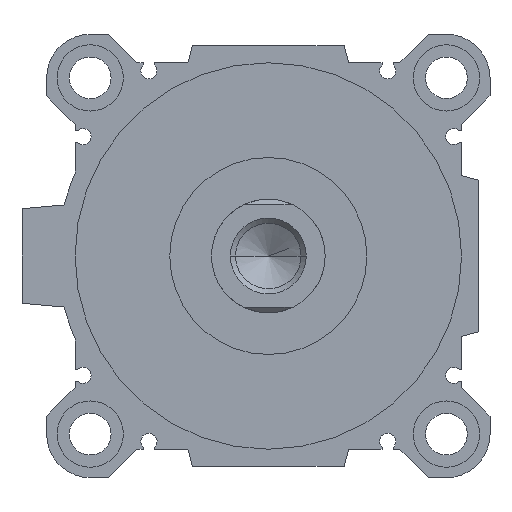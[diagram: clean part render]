
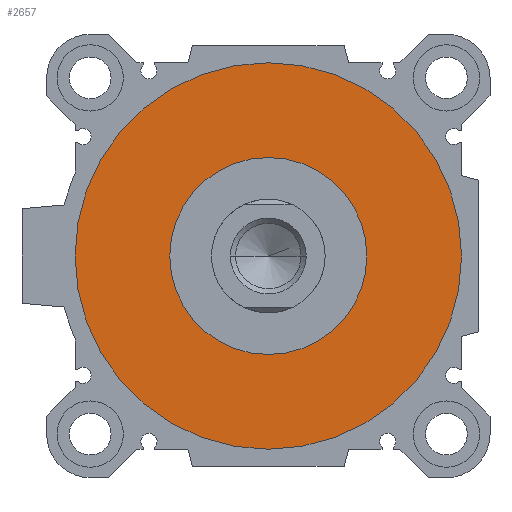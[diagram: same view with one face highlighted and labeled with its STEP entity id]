
A CAD part, left-side view. The second image highlights one B-rep face of the part: STEP entity #2657.
In plain terms, the highlighted planar face has unit normal (-1, 0, 0).
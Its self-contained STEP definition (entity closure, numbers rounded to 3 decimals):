
#44 = CARTESIAN_POINT ( 'NONE',  ( 6.5, 0., 51. ) ) ;
#76 = CARTESIAN_POINT ( 'NONE',  ( 6.5, 0., 0. ) ) ;
#276 = ORIENTED_EDGE ( 'NONE', *, *, #2929, .F. ) ;
#375 = DIRECTION ( 'NONE',  ( 0., 1., 0. ) ) ;
#396 = EDGE_LOOP ( 'NONE', ( #276, #2533 ) ) ;
#425 = EDGE_CURVE ( 'NONE', #4260, #3875, #3651, .T. ) ;
#446 = EDGE_CURVE ( 'NONE', #1609, #636, #986, .T. ) ;
#487 = PLANE ( 'NONE',  #3346 ) ;
#539 = ORIENTED_EDGE ( 'NONE', *, *, #2882, .T. ) ;
#543 = AXIS2_PLACEMENT_3D ( 'NONE', #3995, #4370, #2294 ) ;
#610 = ORIENTED_EDGE ( 'NONE', *, *, #446, .T. ) ;
#636 = VERTEX_POINT ( 'NONE', #4093 ) ;
#669 = DIRECTION ( 'NONE',  ( 0., 0., -1. ) ) ;
#736 = CARTESIAN_POINT ( 'NONE',  ( 6.5, 0., 26. ) ) ;
#958 = CIRCLE ( 'NONE', #4065, 26. ) ;
#986 = CIRCLE ( 'NONE', #3652, 26. ) ;
#1353 = CARTESIAN_POINT ( 'NONE',  ( 6.5, 0., 0. ) ) ;
#1430 = DIRECTION ( 'NONE',  ( 0., 0., -1. ) ) ;
#1596 = CARTESIAN_POINT ( 'NONE',  ( 6.5, 0., 0. ) ) ;
#1609 = VERTEX_POINT ( 'NONE', #736 ) ;
#1753 = DIRECTION ( 'NONE',  ( 1., 0., 0. ) ) ;
#2294 = DIRECTION ( 'NONE',  ( 0., 0., -1. ) ) ;
#2402 = DIRECTION ( 'NONE',  ( 0., 0., -1. ) ) ;
#2533 = ORIENTED_EDGE ( 'NONE', *, *, #425, .F. ) ;
#2657 = ADVANCED_FACE ( 'NONE', ( #4294, #3862 ), #487, .F. ) ;
#2882 = EDGE_CURVE ( 'NONE', #636, #1609, #958, .T. ) ;
#2929 = EDGE_CURVE ( 'NONE', #3875, #4260, #5474, .T. ) ;
#3264 = CARTESIAN_POINT ( 'NONE',  ( 6.5, 0., 0. ) ) ;
#3346 = AXIS2_PLACEMENT_3D ( 'NONE', #76, #1753, #375 ) ;
#3651 = CIRCLE ( 'NONE', #543, 51. ) ;
#3652 = AXIS2_PLACEMENT_3D ( 'NONE', #1353, #4394, #1430 ) ;
#3862 = FACE_BOUND ( 'NONE', #4630, .T. ) ;
#3875 = VERTEX_POINT ( 'NONE', #44 ) ;
#3893 = AXIS2_PLACEMENT_3D ( 'NONE', #1596, #4890, #2402 ) ;
#3995 = CARTESIAN_POINT ( 'NONE',  ( 6.5, 0., 0. ) ) ;
#4046 = DIRECTION ( 'NONE',  ( 1., 0., 0. ) ) ;
#4065 = AXIS2_PLACEMENT_3D ( 'NONE', #3264, #4046, #669 ) ;
#4093 = CARTESIAN_POINT ( 'NONE',  ( 6.5, 0., -26. ) ) ;
#4260 = VERTEX_POINT ( 'NONE', #5273 ) ;
#4294 = FACE_OUTER_BOUND ( 'NONE', #396, .T. ) ;
#4370 = DIRECTION ( 'NONE',  ( 1., 0., 0. ) ) ;
#4394 = DIRECTION ( 'NONE',  ( 1., 0., 0. ) ) ;
#4630 = EDGE_LOOP ( 'NONE', ( #610, #539 ) ) ;
#4890 = DIRECTION ( 'NONE',  ( 1., 0., 0. ) ) ;
#5273 = CARTESIAN_POINT ( 'NONE',  ( 6.5, 0., -51. ) ) ;
#5474 = CIRCLE ( 'NONE', #3893, 51. ) ;
